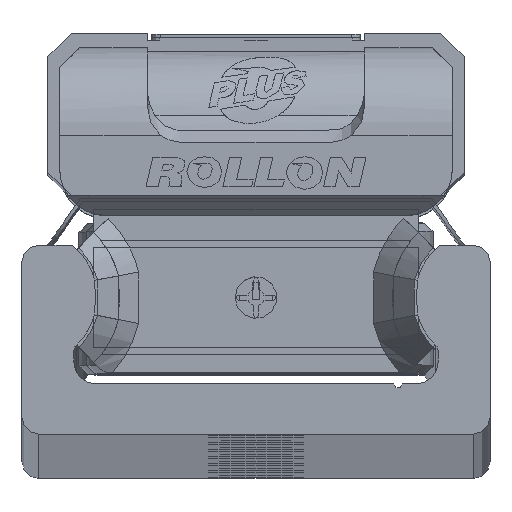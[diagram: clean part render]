
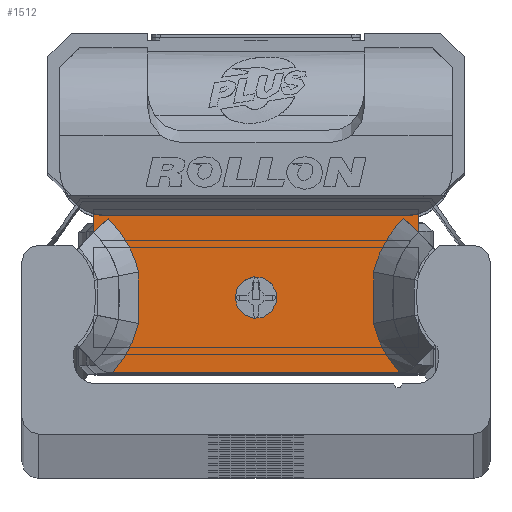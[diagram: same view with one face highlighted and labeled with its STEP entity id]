
A CAD part, top view. The second image highlights one B-rep face of the part: STEP entity #1512.
In plain terms, the highlighted planar face has unit normal (0, 0, 1) as drawn and (0, 0, -1) by its records, which use the part's own axes.
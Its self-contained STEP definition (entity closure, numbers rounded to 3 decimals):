
#1512 = ADVANCED_FACE( '', ( #3386, #3387 ), #3388, .F. );
#3386 = FACE_BOUND( '', #5671, .T. );
#3387 = FACE_OUTER_BOUND( '', #5672, .T. );
#3388 = PLANE( '', #5673 );
#5671 = EDGE_LOOP( '', ( #9832 ) );
#5672 = EDGE_LOOP( '', ( #9833, #9834, #9835, #9836, #9837, #9838, #9839, #9840, #9841, #9842, #9843, #9844, #9845, #9846 ) );
#5673 = AXIS2_PLACEMENT_3D( '', #9847, #9848, #9849 );
#9832 = ORIENTED_EDGE( '', *, *, #12736, .T. );
#9833 = ORIENTED_EDGE( '', *, *, #14078, .F. );
#9834 = ORIENTED_EDGE( '', *, *, #12532, .T. );
#9835 = ORIENTED_EDGE( '', *, *, #12907, .T. );
#9836 = ORIENTED_EDGE( '', *, *, #14079, .T. );
#9837 = ORIENTED_EDGE( '', *, *, #12769, .T. );
#9838 = ORIENTED_EDGE( '', *, *, #14080, .T. );
#9839 = ORIENTED_EDGE( '', *, *, #13032, .T. );
#9840 = ORIENTED_EDGE( '', *, *, #14081, .T. );
#9841 = ORIENTED_EDGE( '', *, *, #14082, .T. );
#9842 = ORIENTED_EDGE( '', *, *, #14083, .T. );
#9843 = ORIENTED_EDGE( '', *, *, #13443, .T. );
#9844 = ORIENTED_EDGE( '', *, *, #14084, .T. );
#9845 = ORIENTED_EDGE( '', *, *, #14085, .T. );
#9846 = ORIENTED_EDGE( '', *, *, #13853, .T. );
#9847 = CARTESIAN_POINT( '', ( 9.7, 4.89, -10.6 ) );
#9848 = DIRECTION( '', ( 0., 0., 1. ) );
#9849 = DIRECTION( '', ( 1., 0., 0. ) );
#12532 = EDGE_CURVE( '', #14764, #14762, #14765, .T. );
#12736 = EDGE_CURVE( '', #15132, #15132, #15133, .T. );
#12769 = EDGE_CURVE( '', #15189, #15190, #15191, .T. );
#12907 = EDGE_CURVE( '', #14762, #15422, #15424, .T. );
#13032 = EDGE_CURVE( '', #15635, #15636, #15637, .T. );
#13443 = EDGE_CURVE( '', #16296, #16304, #16306, .T. );
#13853 = EDGE_CURVE( '', #16936, #16934, #16937, .T. );
#14078 = EDGE_CURVE( '', #14764, #16934, #17242, .T. );
#14079 = EDGE_CURVE( '', #15422, #15189, #17243, .T. );
#14080 = EDGE_CURVE( '', #15190, #15635, #17244, .T. );
#14081 = EDGE_CURVE( '', #15636, #17245, #17246, .T. );
#14082 = EDGE_CURVE( '', #17245, #15383, #17247, .T. );
#14083 = EDGE_CURVE( '', #15383, #16296, #17248, .T. );
#14084 = EDGE_CURVE( '', #16304, #17249, #17250, .T. );
#14085 = EDGE_CURVE( '', #17249, #16936, #17251, .T. );
#14762 = VERTEX_POINT( '', #18070 );
#14764 = VERTEX_POINT( '', #18073 );
#14765 = CIRCLE( '', #18074, 2.8 );
#15132 = VERTEX_POINT( '', #18580 );
#15133 = CIRCLE( '', #18581, 1.25 );
#15189 = VERTEX_POINT( '', #18657 );
#15190 = VERTEX_POINT( '', #18658 );
#15191 = LINE( '', #18659, #18660 );
#15383 = VERTEX_POINT( '', #18944 );
#15422 = VERTEX_POINT( '', #18999 );
#15424 = LINE( '', #19002, #19003 );
#15635 = VERTEX_POINT( '', #19303 );
#15636 = VERTEX_POINT( '', #19304 );
#15637 = B_SPLINE_CURVE_WITH_KNOTS( '', 2, ( #19305, #19306, #19307, #19308, #19309 ), .UNSPECIFIED., .F., .F., ( 3, 2, 3 ), ( 0., 0.5, 1. ), .UNSPECIFIED. );
#16296 = VERTEX_POINT( '', #20268 );
#16304 = VERTEX_POINT( '', #20288 );
#16306 = B_SPLINE_CURVE_WITH_KNOTS( '', 2, ( #20291, #20292, #20293 ), .UNSPECIFIED., .F., .F., ( 3, 3 ), ( 0.1, 1. ), .UNSPECIFIED. );
#16934 = VERTEX_POINT( '', #21178 );
#16936 = VERTEX_POINT( '', #21181 );
#16937 = LINE( '', #21182, #21183 );
#17242 = LINE( '', #21616, #21617 );
#17243 = CIRCLE( '', #21618, 2.8 );
#17244 = LINE( '', #21619, #21620 );
#17245 = VERTEX_POINT( '', #21621 );
#17246 = B_SPLINE_CURVE_WITH_KNOTS( '', 2, ( #21622, #21623, #21624 ), .UNSPECIFIED., .F., .F., ( 3, 3 ), ( 0., 1. ), .UNSPECIFIED. );
#17247 = B_SPLINE_CURVE_WITH_KNOTS( '', 2, ( #21625, #21626, #21627 ), .UNSPECIFIED., .F., .F., ( 3, 3 ), ( 0., 1. ), .UNSPECIFIED. );
#17248 = LINE( '', #21628, #21629 );
#17249 = VERTEX_POINT( '', #21630 );
#17250 = B_SPLINE_CURVE_WITH_KNOTS( '', 2, ( #21631, #21632, #21633 ), .UNSPECIFIED., .F., .F., ( 3, 3 ), ( 0., 1. ), .UNSPECIFIED. );
#17251 = B_SPLINE_CURVE_WITH_KNOTS( '', 2, ( #21634, #21635, #21636 ), .UNSPECIFIED., .F., .F., ( 3, 3 ), ( 0., 1. ), .UNSPECIFIED. );
#18070 = CARTESIAN_POINT( '', ( -8.95, 4.51, -10.6 ) );
#18073 = CARTESIAN_POINT( '', ( -9.7, 4.612, -10.6 ) );
#18074 = AXIS2_PLACEMENT_3D( '', #22766, #22767, #22768 );
#18580 = CARTESIAN_POINT( '', ( 1.25, -0.39, -10.6 ) );
#18581 = AXIS2_PLACEMENT_3D( '', #23109, #23110, #23111 );
#18657 = CARTESIAN_POINT( '', ( 9.7, 4.612, -10.6 ) );
#18658 = CARTESIAN_POINT( '', ( 9.7, 3.497, -10.6 ) );
#18659 = CARTESIAN_POINT( '', ( 9.7, 4.89, -10.6 ) );
#18660 = VECTOR( '', #23147, 1000. );
#18944 = CARTESIAN_POINT( '', ( 8.59, -4.893, -10.6 ) );
#18999 = CARTESIAN_POINT( '', ( 8.95, 4.51, -10.6 ) );
#19002 = CARTESIAN_POINT( '', ( 9.7, 4.51, -10.6 ) );
#19003 = VECTOR( '', #23314, 1000. );
#19303 = CARTESIAN_POINT( '', ( 8.853, 4.366, -10.6 ) );
#19304 = CARTESIAN_POINT( '', ( 7.031, 1.144, -10.6 ) );
#19305 = CARTESIAN_POINT( '', ( 8.853, 4.366, -10.6 ) );
#19306 = CARTESIAN_POINT( '', ( 8.182, 3.708, -10.6 ) );
#19307 = CARTESIAN_POINT( '', ( 7.715, 2.883, -10.6 ) );
#19308 = CARTESIAN_POINT( '', ( 7.249, 2.058, -10.6 ) );
#19309 = CARTESIAN_POINT( '', ( 7.031, 1.144, -10.6 ) );
#20268 = CARTESIAN_POINT( '', ( -8.59, -4.893, -10.6 ) );
#20288 = CARTESIAN_POINT( '', ( -7.031, -1.944, -10.6 ) );
#20291 = CARTESIAN_POINT( '', ( -8.587, -4.89, -10.6 ) );
#20292 = CARTESIAN_POINT( '', ( -7.432, -3.63, -10.6 ) );
#20293 = CARTESIAN_POINT( '', ( -7.031, -1.944, -10.6 ) );
#21178 = CARTESIAN_POINT( '', ( -9.7, 3.494, -10.6 ) );
#21181 = CARTESIAN_POINT( '', ( -8.853, 4.366, -10.6 ) );
#21182 = CARTESIAN_POINT( '', ( -8.853, 4.366, -10.6 ) );
#21183 = VECTOR( '', #24611, 1000. );
#21616 = CARTESIAN_POINT( '', ( -9.7, 4.89, -10.6 ) );
#21617 = VECTOR( '', #24851, 1000. );
#21618 = AXIS2_PLACEMENT_3D( '', #24852, #24853, #24854 );
#21619 = CARTESIAN_POINT( '', ( 9.7, 3.501, -10.6 ) );
#21620 = VECTOR( '', #24855, 1000. );
#21621 = CARTESIAN_POINT( '', ( 7.031, -1.944, -10.6 ) );
#21622 = CARTESIAN_POINT( '', ( 7.031, 1.144, -10.6 ) );
#21623 = CARTESIAN_POINT( '', ( 6.929, -0.4, -10.6 ) );
#21624 = CARTESIAN_POINT( '', ( 7.031, -1.944, -10.6 ) );
#21625 = CARTESIAN_POINT( '', ( 7.031, -1.944, -10.6 ) );
#21626 = CARTESIAN_POINT( '', ( 7.429, -3.615, -10.6 ) );
#21627 = CARTESIAN_POINT( '', ( 8.588, -4.89, -10.6 ) );
#21628 = CARTESIAN_POINT( '', ( 9.7, -4.89, -10.6 ) );
#21629 = VECTOR( '', #24856, 1000. );
#21630 = CARTESIAN_POINT( '', ( -7.031, 1.144, -10.6 ) );
#21631 = CARTESIAN_POINT( '', ( -7.031, -1.944, -10.6 ) );
#21632 = CARTESIAN_POINT( '', ( -6.929, -0.4, -10.6 ) );
#21633 = CARTESIAN_POINT( '', ( -7.031, 1.144, -10.6 ) );
#21634 = CARTESIAN_POINT( '', ( -7.031, 1.144, -10.6 ) );
#21635 = CARTESIAN_POINT( '', ( -7.477, 3.018, -10.6 ) );
#21636 = CARTESIAN_POINT( '', ( -8.853, 4.366, -10.6 ) );
#22766 = CARTESIAN_POINT( '', ( -8.95, 7.31, -10.6 ) );
#22767 = DIRECTION( '', ( 0., 0., 1. ) );
#22768 = DIRECTION( '', ( 1., 0., 0. ) );
#23109 = CARTESIAN_POINT( '', ( 0., -0.39, -10.6 ) );
#23110 = DIRECTION( '', ( 0., 0., 1. ) );
#23111 = DIRECTION( '', ( 1., 0., 0. ) );
#23147 = DIRECTION( '', ( 0., -1., 0. ) );
#23314 = DIRECTION( '', ( 1., 0., 0. ) );
#24611 = DIRECTION( '', ( -0.7, -0.714, 0. ) );
#24851 = DIRECTION( '', ( 0., -1., 0. ) );
#24852 = CARTESIAN_POINT( '', ( 8.95, 7.31, -10.6 ) );
#24853 = DIRECTION( '', ( 0., 0., 1. ) );
#24854 = DIRECTION( '', ( 1., 0., 0. ) );
#24855 = DIRECTION( '', ( -0.7, 0.714, 0. ) );
#24856 = DIRECTION( '', ( -1., 0., 0. ) );
